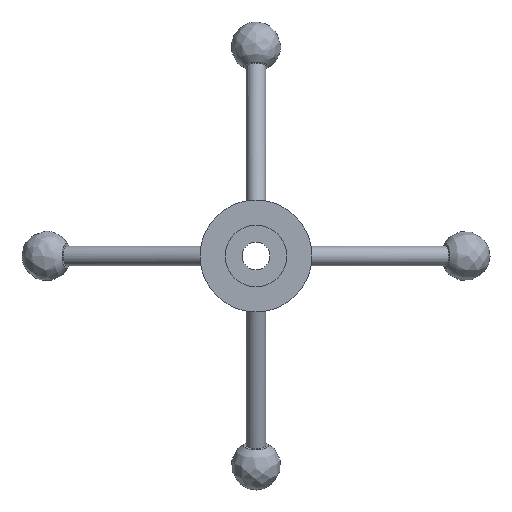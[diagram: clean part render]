
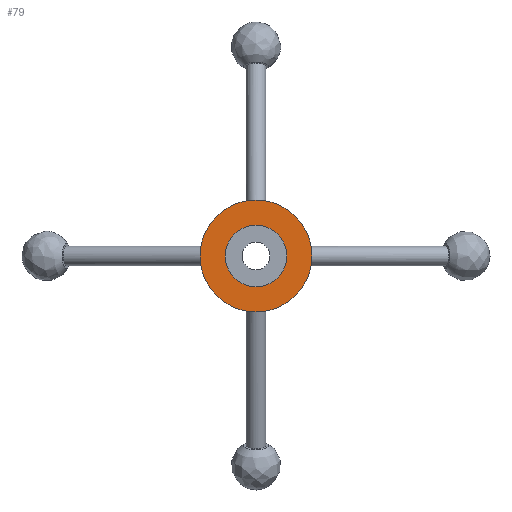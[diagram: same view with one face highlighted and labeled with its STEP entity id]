
A CAD part, front view. The second image highlights one B-rep face of the part: STEP entity #79.
In plain terms, the highlighted planar face has unit normal (0, -1, 0).
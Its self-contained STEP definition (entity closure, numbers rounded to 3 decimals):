
#79 = ADVANCED_FACE( '', ( #107, #108 ), #109, .F. );
#107 = FACE_BOUND( '', #202, .T. );
#108 = FACE_OUTER_BOUND( '', #203, .T. );
#109 = PLANE( '', #204 );
#202 = EDGE_LOOP( '', ( #370 ) );
#203 = EDGE_LOOP( '', ( #371 ) );
#204 = AXIS2_PLACEMENT_3D( '', #372, #373, #374 );
#370 = ORIENTED_EDGE( '', *, *, #446, .F. );
#371 = ORIENTED_EDGE( '', *, *, #447, .T. );
#372 = CARTESIAN_POINT( '', ( 40., 16., 0. ) );
#373 = DIRECTION( '', ( 0., 1., 0. ) );
#374 = DIRECTION( '', ( 0., 0., 1. ) );
#446 = EDGE_CURVE( '', #473, #473, #474, .T. );
#447 = EDGE_CURVE( '', #475, #475, #476, .T. );
#473 = VERTEX_POINT( '', #596 );
#474 = CIRCLE( '', #597, 22. );
#475 = VERTEX_POINT( '', #598 );
#476 = CIRCLE( '', #599, 40. );
#596 = CARTESIAN_POINT( '', ( 0., 16., -22. ) );
#597 = AXIS2_PLACEMENT_3D( '', #899, #900, #901 );
#598 = CARTESIAN_POINT( '', ( 0., 16., -40. ) );
#599 = AXIS2_PLACEMENT_3D( '', #902, #903, #904 );
#899 = CARTESIAN_POINT( '', ( 0., 16., 0. ) );
#900 = DIRECTION( '', ( 0., -1., 0. ) );
#901 = DIRECTION( '', ( 0., 0., -1. ) );
#902 = CARTESIAN_POINT( '', ( 0., 16., 0. ) );
#903 = DIRECTION( '', ( 0., -1., 0. ) );
#904 = DIRECTION( '', ( 0., 0., -1. ) );
